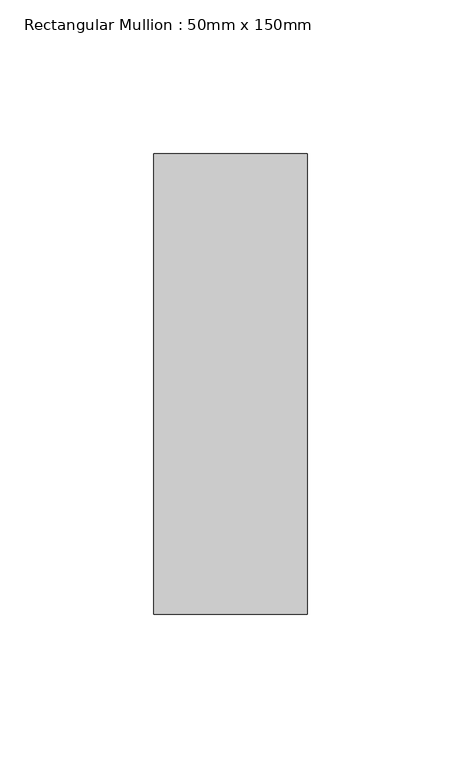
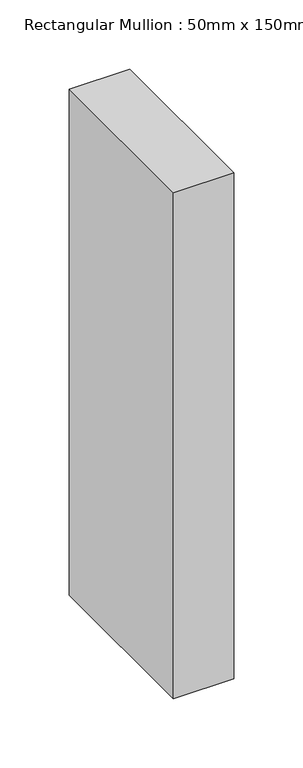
"""IFC4 building model written with IfcOpenShell, lengths in millimetres: member geometry, Rectangular Mullion : 50mm x 150mm."""

import ifcopenshell
import ifcopenshell.guid

model = None  # the IFC model being written
_history = None  # IfcOwnerHistory: only IFC2X3 demands one
_inside = {}  # id of a spatial element -> (the spatial element, [elements in it])
_under = {}  # id of a project, library or spatial element -> (it, [spatial elements below it])
_declared = {}  # id of a project -> (the project, [libraries it declares])
_typed = {}  # id of a type object -> (the type object, [elements of that type])
_made_of = {}  # id of a material, layer set ... -> (it, [elements and type objects made of it])


def new_model(schema):
    """Start an empty IFC model of exactly this schema.

    Asked for "IFC4X3", IfcOpenShell would pick the latest addendum, in which some entities
    have other attributes; the version numbers below select the first issue.
    IFC2X3 requires an IfcOwnerHistory on every rooted entity: one is made here for all.
    """
    global model, _history
    if schema == "IFC4X3":
        model = ifcopenshell.file(schema_version=(4, 3, 0, 0))
    else:
        model = ifcopenshell.file(schema=schema)
    _inside.clear()
    _under.clear()
    _declared.clear()
    _typed.clear()
    _made_of.clear()
    _history = None
    if model.schema == "IFC2X3":
        org = make("IfcOrganization", Name="unknown")
        user = make(
            "IfcPersonAndOrganization",
            ThePerson=make("IfcPerson", FamilyName="unknown"),
            TheOrganization=org,
        )
        app = make(
            "IfcApplication",
            ApplicationDeveloper=org,
            Version="unknown",
            ApplicationFullName="unknown",
            ApplicationIdentifier="unknown",
        )
        _history = make(
            "IfcOwnerHistory",
            OwningUser=user,
            OwningApplication=app,
            ChangeAction="ADDED",
            CreationDate=0,
        )
    return model


def make(cls, **values):
    """One entity of the class cls with the attributes given. An attribute that is None is left unset."""
    return model.create_entity(
        cls, **{name: value for name, value in values.items() if value is not None}
    )


def rooted(cls, **values):
    """An entity with a GlobalId (a new one), such as an element, a storey or a relation."""
    return make(cls, GlobalId=ifcopenshell.guid.new(), OwnerHistory=_history, **values)


def si_unit(unit_type, name, prefix=None):
    """IfcSIUnit, for example si_unit("LENGTHUNIT", "METRE", prefix="MILLI")."""
    return make("IfcSIUnit", UnitType=unit_type, Prefix=prefix, Name=name)


def assignment(units):
    """IfcUnitAssignment: the units of a project."""
    return None if units is None else make("IfcUnitAssignment", Units=units)


def point(xyz):
    """IfcCartesianPoint."""
    return None if xyz is None else make("IfcCartesianPoint", Coordinates=xyz)


def direction(xyz):
    """IfcDirection."""
    return None if xyz is None else make("IfcDirection", DirectionRatios=xyz)


def frame(location, z_axis=None, x_axis=None):
    """IfcAxis2Placement3D, a coordinate frame: its origin and axes. An axis left out is left unset."""
    return make(
        "IfcAxis2Placement3D",
        Location=point(location),
        Axis=direction(z_axis),
        RefDirection=direction(x_axis),
    )


def origin():
    """The frame at (0, 0, 0) with its axes left unset."""
    return frame((0.0, 0.0, 0.0))


def place(relative_to, where):
    """IfcLocalPlacement: puts the frame where relative to a parent placement (None: the world)."""
    return make(
        "IfcLocalPlacement", PlacementRelTo=relative_to, RelativePlacement=where
    )


def context(
    kind, dimensions, precision=None, world=None, true_north=None, identifier=None
):
    """IfcGeometricRepresentationContext, for example the 3D "Model" context."""
    return make(
        "IfcGeometricRepresentationContext",
        ContextIdentifier=identifier,
        ContextType=kind,
        CoordinateSpaceDimension=dimensions,
        Precision=precision,
        WorldCoordinateSystem=world,
        TrueNorth=true_north,
    )


def project(units=None, contexts=None):
    """IfcProject with its units and contexts."""
    return rooted(
        "IfcProject",
        Name="project",
        RepresentationContexts=contexts,
        UnitsInContext=assignment(units),
    )


def spatial(cls, under=None, at=None, **own):
    """A site, building, storey or space (cls), placed at a placement, below another one or the project."""
    s = rooted(cls, ObjectPlacement=at, **own)
    if under is not None:
        _under.setdefault(under.id(), (under, []))[1].append(s)
    return s


def polyline(points):
    """IfcPolyline through the points."""
    return make("IfcPolyline", Points=[point(p) for p in points])


def outline(outer, holes=None, kind="AREA"):
    """IfcArbitraryClosedProfileDef: a profile drawn as a closed curve; with holes, ...WithVoids."""
    if holes is None:
        return make("IfcArbitraryClosedProfileDef", ProfileType=kind, OuterCurve=outer)
    return make(
        "IfcArbitraryProfileDefWithVoids",
        ProfileType=kind,
        OuterCurve=outer,
        InnerCurves=holes,
    )


def extrude(swept, where, along, depth):
    """IfcExtrudedAreaSolid: the profile swept, set in the frame where, extruded along a direction by depth."""
    return make(
        "IfcExtrudedAreaSolid",
        SweptArea=swept,
        Position=where,
        ExtrudedDirection=direction(along),
        Depth=depth,
    )


def shape(context_of_items, identifier, shape_type, items):
    """IfcShapeRepresentation: the items that make up one representation, for example the "Body"."""
    return make(
        "IfcShapeRepresentation",
        ContextOfItems=context_of_items,
        RepresentationIdentifier=identifier,
        RepresentationType=shape_type,
        Items=items,
    )


def source(mapping_origin, context_of_items, identifier, shape_type, items):
    """IfcRepresentationMap: a shape defined once, which mapped items show again and again."""
    return make(
        "IfcRepresentationMap",
        MappingOrigin=mapping_origin,
        MappedRepresentation=shape(context_of_items, identifier, shape_type, items),
    )


def transform(
    local_origin,
    x_axis=None,
    y_axis=None,
    z_axis=None,
    scale=None,
    scale2=None,
    scale3=None,
    uniform=True,
):
    """IfcCartesianTransformationOperator3D, or its non-uniform kind. x_axis, y_axis, z_axis: its Axis1, 2, 3."""
    if uniform:
        return make(
            "IfcCartesianTransformationOperator3D",
            Axis1=direction(x_axis),
            Axis2=direction(y_axis),
            LocalOrigin=point(local_origin),
            Scale=scale,
            Axis3=direction(z_axis),
        )
    return make(
        "IfcCartesianTransformationOperator3DnonUniform",
        Axis1=direction(x_axis),
        Axis2=direction(y_axis),
        LocalOrigin=point(local_origin),
        Scale=scale,
        Axis3=direction(z_axis),
        Scale2=scale2,
        Scale3=scale3,
    )


def mapped(mapping_source, mapping_target):
    """IfcMappedItem: shows the shape of a source again, moved by a transform."""
    return make(
        "IfcMappedItem", MappingSource=mapping_source, MappingTarget=mapping_target
    )


def made_of(thing, what):
    """Note that an element or type object is made of a material, layer set ...; save() writes the relation."""
    if what is not None:
        _made_of.setdefault(what.id(), (what, []))[1].append(thing)
    return thing


def element(
    cls,
    number,
    at=None,
    inside=None,
    cuts=None,
    type_object=None,
    material=None,
    context=None,
    identifier="Body",
    shape_type=None,
    held_by="IfcProductDefinitionShape",
    body=None,
    shapes=None,
    **own,
):
    """One element of the class cls, such as IfcWall. Its Tag is "e" and its number.

    at: its placement. inside: the storey or other place that contains it. cuts: it is an
    opening in that element (IfcRelVoidsElement). A single representation is given by context,
    identifier, shape_type and body (its items); several are given by shapes. held_by: the class
    of the entity that holds the representations. save() writes the other relations.
    """
    e = rooted(cls, Tag="e%d" % number, ObjectPlacement=at, **own)
    if body is not None:
        shapes = [shape(context, identifier, shape_type, body)]
    if shapes is not None:
        e.Representation = make(held_by, Representations=shapes)
    if inside is not None:
        _inside.setdefault(inside.id(), (inside, []))[1].append(e)
    if cuts is not None:
        rooted(
            "IfcRelVoidsElement", RelatingBuildingElement=cuts, RelatedOpeningElement=e
        )
    if type_object is not None:
        _typed.setdefault(type_object.id(), (type_object, []))[1].append(e)
    return made_of(e, material)


def aggregate(whole, parts):
    """IfcRelAggregates: a whole, such as a stair, and the parts it consists of."""
    return rooted("IfcRelAggregates", RelatingObject=whole, RelatedObjects=parts)


def save(model, path):
    """Write the relations noted so far, then the file.

    IfcRelAggregates (storeys below a building ...), IfcRelContainedInSpatialStructure (elements
    in a storey), IfcRelDefinesByType, IfcRelAssociatesMaterial and IfcRelDeclares: one each for
    every whole, place, type object, material and project.
    """
    for whole, parts in _under.values():
        aggregate(whole, parts)
    for where, things in _inside.values():
        rooted(
            "IfcRelContainedInSpatialStructure",
            RelatedElements=things,
            RelatingStructure=where,
        )
    for kind, things in _typed.values():
        rooted("IfcRelDefinesByType", RelatedObjects=things, RelatingType=kind)
    for what, things in _made_of.values():
        rooted("IfcRelAssociatesMaterial", RelatedObjects=things, RelatingMaterial=what)
    for by, libraries in _declared.values():
        rooted("IfcRelDeclares", RelatingContext=by, RelatedDefinitions=libraries)
    model.write(path)


def rectangular_mullion_50mm_x_150mm_b06d37f8(model_context):
    return source(origin(), model_context, "Body", "SweptSolid", [
        extrude(outline(polyline([(0.0, 75.0), (0.0, -75.0), (-50.0, -75.0), (-50.0, 75.0), (0.0, 75.0)])), frame((0.0, 0.0, -444.9403709), z_axis=(0.0, 0.0, 1.0), x_axis=(1.0, 0.0, 0.0)), (0.0, 0.0, 1.0), 444.9403709),
    ])


if __name__ == "__main__":
    model = new_model("IFC4")
    model_context = context("Model", 3, world=origin())
    ifc_project = project(units=[si_unit("LENGTHUNIT", "METRE", prefix="MILLI")], contexts=[model_context])
    site = spatial("IfcSite", under=ifc_project)
    building = spatial("IfcBuilding", under=site)
    placement = place(None, origin())
    rectangular_mullion_50mm_x_150mm_shape = rectangular_mullion_50mm_x_150mm_b06d37f8(model_context)
    element("IfcMember", 1, ObjectType="Rectangular Mullion : 50mm x 150mm", at=placement, inside=building, context=model_context, shape_type="MappedRepresentation", body=[
        mapped(rectangular_mullion_50mm_x_150mm_shape, transform((0.0, 0.0, 0.0), x_axis=(1.0, 0.0, 0.0), y_axis=(0.0, 1.0, 0.0), z_axis=(0.0, 0.0, 1.0))),
    ])
    save(model, "model.ifc")
